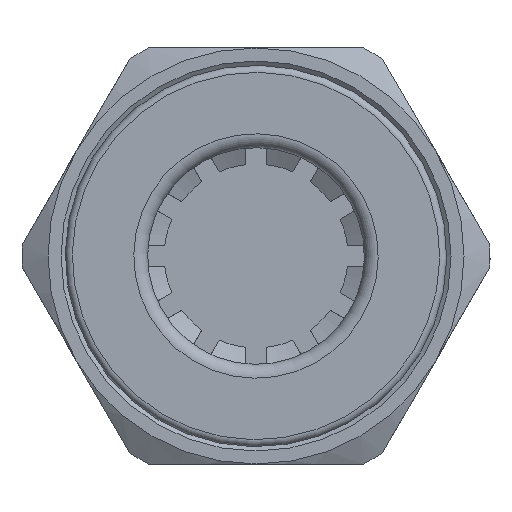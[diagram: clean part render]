
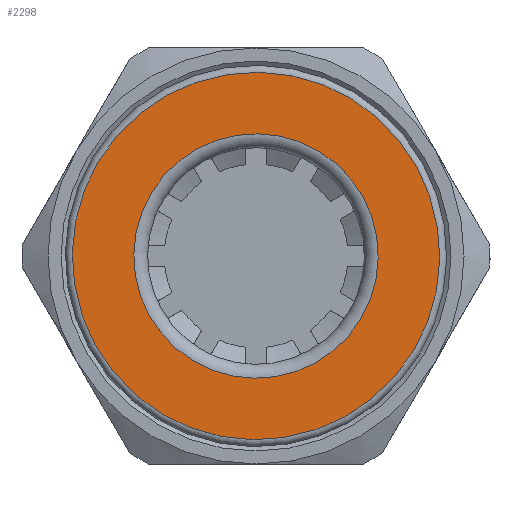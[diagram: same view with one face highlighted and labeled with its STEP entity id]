
A CAD part, left-side view. The second image highlights one B-rep face of the part: STEP entity #2298.
In plain terms, the highlighted planar face has unit normal (-1, 0, 0).
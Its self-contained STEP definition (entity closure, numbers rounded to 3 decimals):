
#2298=ADVANCED_FACE('',(#6634,#6635),#6636,.T.);
#2756=EDGE_CURVE('',#7395,#7395,#7396,.T.);
#2758=EDGE_CURVE('',#7398,#7398,#7399,.T.);
#6634=FACE_BOUND('',#12648,.T.);
#6635=FACE_OUTER_BOUND('',#12649,.T.);
#6636=PLANE('',#12650);
#7395=VERTEX_POINT('',#13775);
#7396=CIRCLE('',#13776,3.525);
#7398=VERTEX_POINT('',#13779);
#7399=CIRCLE('',#13780,5.3);
#12648=EDGE_LOOP('',(#25160));
#12649=EDGE_LOOP('',(#25161));
#12650=AXIS2_PLACEMENT_3D('',#25162,#25163,#25164);
#13775=CARTESIAN_POINT('',(22.409,9.221,48.602));
#13776=AXIS2_PLACEMENT_3D('',#26156,#26157,#26158);
#13779=CARTESIAN_POINT('',(22.409,9.8,50.279));
#13780=AXIS2_PLACEMENT_3D('',#26159,#26160,#26161);
#25160=ORIENTED_EDGE('',*,*,#2756,.F.);
#25161=ORIENTED_EDGE('',*,*,#2758,.F.);
#25162=CARTESIAN_POINT('',(22.409,6.662,41.193));
#25163=DIRECTION('',(-1.0,0.,0.));
#25164=DIRECTION('',(0.,0.0,1.0));
#26156=CARTESIAN_POINT('',(22.409,8.07,45.27));
#26157=DIRECTION('',(-1.0,0.,0.));
#26158=DIRECTION('',(0.,0.326,0.945));
#26159=CARTESIAN_POINT('',(22.409,8.07,45.27));
#26160=DIRECTION('',(1.0,0.,0.));
#26161=DIRECTION('',(0.,0.326,0.945));
